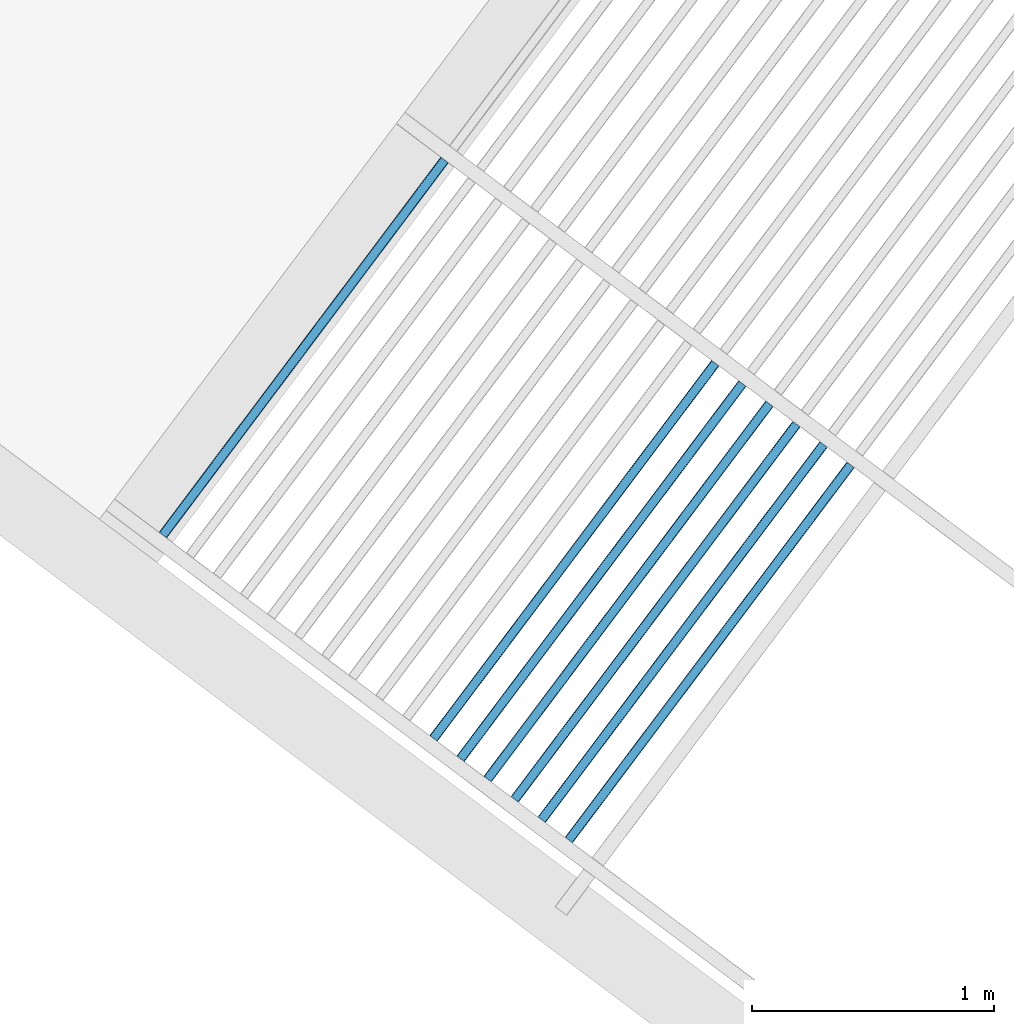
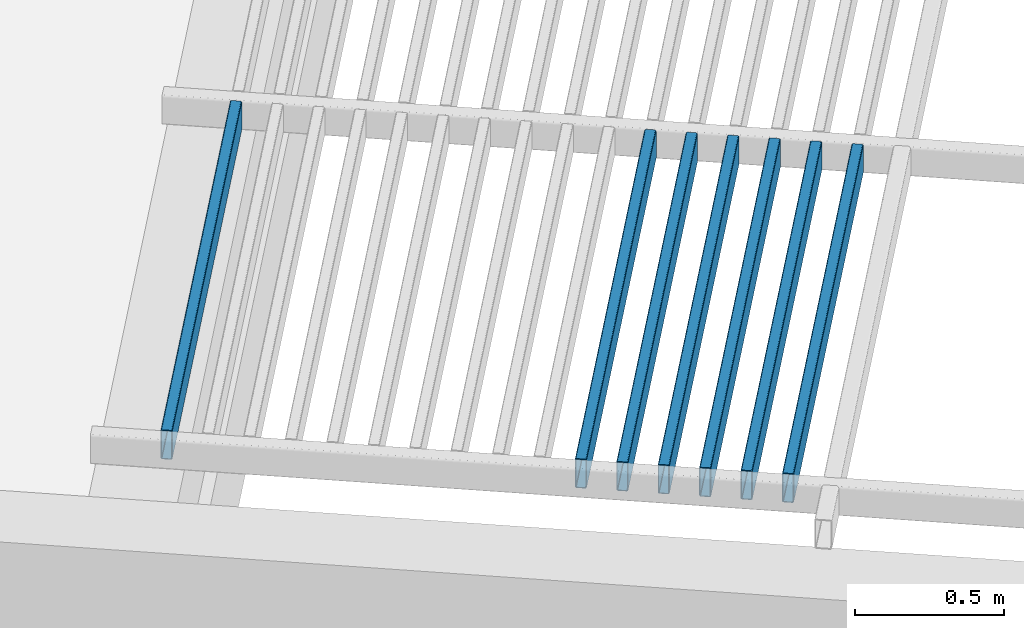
# One storey, part 39 of 95: 7 beams.
"""IFC2X3 building model written with IfcOpenShell, lengths in metres."""

from ifc_helpers import new_model, entity, si_unit, converted_unit, derived_unit, direction, frame, frame_2d, origin, place, context, subcontext, project, spatial, polyline, circle_curve, parameter, trimmed, segment, composite_curve, outline, extrude, material, type_object, element, save


model = new_model("IFC2X3")

# Units and contexts
model_context = context("Model", 3, precision=1e-05, world=origin(), true_north=direction((6.123031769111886e-17, 1.0)))
body_context = subcontext(model_context, "Body", "Model", "MODEL_VIEW")
ifc_project = project(units=[si_unit("LENGTHUNIT", "METRE"), si_unit("AREAUNIT", "SQUARE_METRE"), si_unit("VOLUMEUNIT", "CUBIC_METRE"), converted_unit("PLANEANGLEUNIT", "DEGREE", entity("IfcRatioMeasure", 0.017453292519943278), si_unit("PLANEANGLEUNIT", "RADIAN"), dimensions=[0, 0, 0, 0, 0, 0, 0]), si_unit("MASSUNIT", "GRAM", prefix="KILO"), derived_unit("MASSDENSITYUNIT", [(si_unit("MASSUNIT", "GRAM", prefix="KILO"), 1), (si_unit("LENGTHUNIT", "METRE"), -3)]), derived_unit("IONCONCENTRATIONUNIT", [(si_unit("MASSUNIT", "GRAM", prefix="KILO"), 1), (si_unit("LENGTHUNIT", "METRE"), -3)]), derived_unit("MOMENTOFINERTIAUNIT", [(si_unit("LENGTHUNIT", "METRE"), 4)]), si_unit("TIMEUNIT", "SECOND"), si_unit("FREQUENCYUNIT", "HERTZ"), si_unit("THERMODYNAMICTEMPERATUREUNIT", "DEGREE_CELSIUS"), derived_unit("THERMALTRANSMITTANCEUNIT", [(si_unit("MASSUNIT", "GRAM", prefix="KILO"), 1), (si_unit("THERMODYNAMICTEMPERATUREUNIT", "KELVIN"), -1), (si_unit("TIMEUNIT", "SECOND"), -3)]), derived_unit("THERMALCONDUCTANCEUNIT", [(si_unit("MASSUNIT", "GRAM", prefix="KILO"), 1), (si_unit("THERMODYNAMICTEMPERATUREUNIT", "KELVIN"), -1), (si_unit("TIMEUNIT", "SECOND"), -3), (si_unit("LENGTHUNIT", "METRE"), 1)]), derived_unit("VOLUMETRICFLOWRATEUNIT", [(si_unit("LENGTHUNIT", "METRE"), 3), (si_unit("TIMEUNIT", "SECOND"), -1)]), derived_unit("MASSFLOWRATEUNIT", [(si_unit("MASSUNIT", "GRAM", prefix="KILO"), 1), (si_unit("TIMEUNIT", "SECOND"), -1)]), derived_unit("ROTATIONALFREQUENCYUNIT", [(si_unit("TIMEUNIT", "SECOND"), -1)]), si_unit("ELECTRICCURRENTUNIT", "AMPERE"), si_unit("ELECTRICVOLTAGEUNIT", "VOLT"), si_unit("POWERUNIT", "WATT"), si_unit("FORCEUNIT", "NEWTON", prefix="KILO"), si_unit("ILLUMINANCEUNIT", "LUX"), si_unit("LUMINOUSFLUXUNIT", "LUMEN"), si_unit("LUMINOUSINTENSITYUNIT", "CANDELA"), derived_unit("USERDEFINED", [(si_unit("MASSUNIT", "GRAM", prefix="KILO"), -1), (si_unit("LENGTHUNIT", "METRE"), -2), (si_unit("TIMEUNIT", "SECOND"), 3), (si_unit("LUMINOUSFLUXUNIT", "LUMEN"), 1)]), derived_unit("USERDEFINED", [(si_unit("MASSUNIT", "GRAM", prefix="KILO"), 1), (si_unit("TIMEUNIT", "SECOND"), -3), (si_unit("LENGTHUNIT", "METRE"), 3), (si_unit("ELECTRICCURRENTUNIT", "AMPERE"), -2)]), derived_unit("SOUNDPOWERUNIT", [(si_unit("MASSUNIT", "GRAM", prefix="KILO"), 1), (si_unit("TIMEUNIT", "SECOND"), -3), (si_unit("LENGTHUNIT", "METRE"), 2)]), derived_unit("SOUNDPRESSUREUNIT", [(si_unit("MASSUNIT", "GRAM", prefix="KILO"), 1), (si_unit("LENGTHUNIT", "METRE"), -1), (si_unit("TIMEUNIT", "SECOND"), -2)]), derived_unit("LINEARVELOCITYUNIT", [(si_unit("LENGTHUNIT", "METRE"), 1), (si_unit("TIMEUNIT", "SECOND"), -1)]), si_unit("PRESSUREUNIT", "PASCAL"), derived_unit("USERDEFINED", [(si_unit("MASSUNIT", "GRAM", prefix="KILO"), 1), (si_unit("LENGTHUNIT", "METRE"), -2), (si_unit("TIMEUNIT", "SECOND"), -2)]), derived_unit("LINEARFORCEUNIT", [(si_unit("MASSUNIT", "GRAM", prefix="KILO"), 1), (si_unit("TIMEUNIT", "SECOND"), -2)]), derived_unit("PLANARFORCEUNIT", [(si_unit("MASSUNIT", "GRAM", prefix="KILO"), 1), (si_unit("LENGTHUNIT", "METRE"), -1), (si_unit("TIMEUNIT", "SECOND"), -2)]), derived_unit("SPECIFICHEATCAPACITYUNIT", [(si_unit("THERMODYNAMICTEMPERATUREUNIT", "KELVIN"), -1), (si_unit("LENGTHUNIT", "METRE"), 2), (si_unit("TIMEUNIT", "SECOND"), -2)]), derived_unit("HEATINGVALUEUNIT", [(si_unit("LENGTHUNIT", "METRE"), 2), (si_unit("TIMEUNIT", "SECOND"), -2)]), derived_unit("VAPORPERMEABILITYUNIT", [(si_unit("LENGTHUNIT", "METRE"), -1), (si_unit("TIMEUNIT", "SECOND"), 1)]), derived_unit("DYNAMICVISCOSITYUNIT", [(si_unit("MASSUNIT", "GRAM", prefix="KILO"), 1), (si_unit("TIMEUNIT", "SECOND"), -1), (si_unit("LENGTHUNIT", "METRE"), -1)]), derived_unit("THERMALEXPANSIONCOEFFICIENTUNIT", [(si_unit("THERMODYNAMICTEMPERATUREUNIT", "KELVIN"), -1)]), derived_unit("MODULUSOFELASTICITYUNIT", [(si_unit("MASSUNIT", "GRAM", prefix="KILO"), 1), (si_unit("LENGTHUNIT", "METRE"), -1), (si_unit("TIMEUNIT", "SECOND"), -2)]), derived_unit("ISOTHERMALMOISTURECAPACITYUNIT", [(si_unit("LENGTHUNIT", "METRE"), 3), (si_unit("MASSUNIT", "GRAM", prefix="KILO"), -1)]), derived_unit("MOISTUREDIFFUSIVITYUNIT", [(si_unit("TIMEUNIT", "SECOND"), -1), (si_unit("LENGTHUNIT", "METRE"), 2)])], contexts=[model_context])

# Site, building, storey
site_placement = place(None, origin())
site = spatial("IfcSite", under=ifc_project, at=site_placement, Name="Default", CompositionType="ELEMENT")
building_placement = place(site_placement, frame((0.0, 0.0, 235.0), z_axis=(0.0, 0.0, 1.0), x_axis=(-0.7996477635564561, 0.6004693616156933, 0.0)))
building = spatial("IfcBuilding", under=site, at=building_placement, CompositionType="ELEMENT")
storey_placement = place(building_placement, frame((0.0, 0.0, 3.400000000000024)))
storey = spatial("IfcBuildingStorey", under=building, at=storey_placement, Name="PC- Coberta STR", CompositionType="ELEMENT", Elevation=3.400000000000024)

# Beams
ifc_material = material(Name="_Acer- STR")
beam_type = type_object("IfcBeamType", Name="STR- V- Acer- RHS- Rectangular- T1:120x40RHS -", PredefinedType="NOTDEFINED")
beam_1_placement = place(storey_placement, frame((53.773552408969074, -20.38518994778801, 0.4984047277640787), z_axis=(0.0, 0.0, 1.0), x_axis=(0.0, -1.0, 0.0)))
element("IfcBeam", 1, at=beam_1_placement, inside=storey, type_object=beam_type, material=ifc_material, Name="STR- V- Acer- RHS- Rectangular- T1:120x40RHS -", ObjectType="STR- V- Acer- RHS- Rectangular- T1:120x40RHS -", context=body_context, shape_type="SweptSolid", body=[
    extrude(outline(composite_curve([segment(trimmed(circle_curve(frame_2d((-0.01400000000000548, -0.053999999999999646), x_axis=(1.0, 0.0)), 0.006), [parameter(180.0000000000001)], [parameter(269.99999999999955)], True, "PARAMETER"), True, "CONTINUOUS"), segment(polyline([(-0.01400000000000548, -0.0599999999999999), (0.013999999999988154, -0.0599999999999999)]), True, "CONTINUOUS"), segment(trimmed(circle_curve(frame_2d((0.013999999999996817, -0.053999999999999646), x_axis=(1.0, 0.0)), 0.006), [parameter(269.99999999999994)], [parameter(1.0177774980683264e-13)], True, "PARAMETER"), True, "CONTINUOUS"), segment(polyline([(0.019999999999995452, -0.053999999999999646), (0.019999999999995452, 0.05400000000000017)]), True, "CONTINUOUS"), segment(trimmed(circle_curve(frame_2d((0.013999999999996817, 0.05400000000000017), x_axis=(1.0, 0.0)), 0.006), [parameter(359.9999999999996)], [parameter(89.99999999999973)], True, "PARAMETER"), True, "CONTINUOUS"), segment(polyline([(0.013999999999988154, 0.059999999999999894), (-0.01400000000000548, 0.059999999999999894)]), True, "CONTINUOUS"), segment(trimmed(circle_curve(frame_2d((-0.01400000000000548, 0.05400000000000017), x_axis=(1.0, 0.0)), 0.006), [parameter(90.00000000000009)], [parameter(180.00000000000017)], True, "PARAMETER"), True, "CONTINUOUS"), segment(polyline([(-0.02000000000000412, 0.05400000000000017), (-0.02000000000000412, -0.05400000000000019)]), True, "CONTINUOUS")], self_intersect=False), holes=[composite_curve([segment(polyline([(0.013999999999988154, -0.05700000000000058), (-0.01400000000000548, -0.05700000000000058)]), True, "CONTINUOUS"), segment(trimmed(circle_curve(frame_2d((-0.01400000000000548, -0.05400000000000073), x_axis=(1.0, 0.0)), 0.003), [parameter(179.99999999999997)], [parameter(269.9999999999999)], True, "PARAMETER"), False, "CONTINUOUS"), segment(polyline([(-0.017000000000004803, -0.05400000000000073), (-0.017000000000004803, 0.05399999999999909)]), True, "CONTINUOUS"), segment(trimmed(circle_curve(frame_2d((-0.01400000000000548, 0.05399999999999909), x_axis=(1.0, 0.0)), 0.003), [parameter(90.00000000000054)], [parameter(180.0000000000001)], True, "PARAMETER"), False, "CONTINUOUS"), segment(polyline([(-0.01400000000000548, 0.056999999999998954), (0.013999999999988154, 0.056999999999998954)]), True, "CONTINUOUS"), segment(trimmed(circle_curve(frame_2d((0.013999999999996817, 0.05399999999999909), x_axis=(1.0, 0.0)), 0.003), [parameter(0.0)], [parameter(90.00000000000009)], True, "PARAMETER"), False, "CONTINUOUS"), segment(polyline([(0.016999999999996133, 0.05399999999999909), (0.016999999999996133, -0.05400000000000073)]), True, "CONTINUOUS"), segment(trimmed(circle_curve(frame_2d((0.013999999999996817, -0.05400000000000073), x_axis=(1.0, 0.0)), 0.003), [parameter(270.00000000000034)], [parameter(3.053332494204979e-13)], True, "PARAMETER"), False, "CONTINUOUS")], self_intersect=False)]), frame((-1.9399999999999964, 0.02159527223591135, 0.06159527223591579), z_axis=(1.0, 0.0, 0.0), x_axis=(0.0, -1.0, 0.0)), (0.0, 0.0, 1.0), 1.9400000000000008),
])
beam_2_placement = place(storey_placement, frame((52.3735524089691, -20.38518994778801, 0.4984047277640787), z_axis=(0.0, 0.0, 1.0), x_axis=(0.0, -1.0, 0.0)))
element("IfcBeam", 2, at=beam_2_placement, inside=storey, type_object=beam_type, material=ifc_material, Name="STR- V- Acer- RHS- Rectangular- T1:120x40RHS -", ObjectType="STR- V- Acer- RHS- Rectangular- T1:120x40RHS -", context=body_context, shape_type="SweptSolid", body=[
    extrude(outline(composite_curve([segment(trimmed(circle_curve(frame_2d((-0.01400000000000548, -0.053999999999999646), x_axis=(1.0, 0.0)), 0.006), [parameter(180.0000000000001)], [parameter(269.99999999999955)], True, "PARAMETER"), True, "CONTINUOUS"), segment(polyline([(-0.01400000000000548, -0.0599999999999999), (0.013999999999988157, -0.0599999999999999)]), True, "CONTINUOUS"), segment(trimmed(circle_curve(frame_2d((0.013999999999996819, -0.053999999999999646), x_axis=(1.0, 0.0)), 0.006), [parameter(269.99999999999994)], [parameter(1.0177774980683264e-13)], True, "PARAMETER"), True, "CONTINUOUS"), segment(polyline([(0.019999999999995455, -0.053999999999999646), (0.019999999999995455, 0.05400000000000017)]), True, "CONTINUOUS"), segment(trimmed(circle_curve(frame_2d((0.013999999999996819, 0.05400000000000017), x_axis=(1.0, 0.0)), 0.006), [parameter(359.9999999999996)], [parameter(89.99999999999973)], True, "PARAMETER"), True, "CONTINUOUS"), segment(polyline([(0.013999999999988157, 0.059999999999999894), (-0.01400000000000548, 0.059999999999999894)]), True, "CONTINUOUS"), segment(trimmed(circle_curve(frame_2d((-0.01400000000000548, 0.05400000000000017), x_axis=(1.0, 0.0)), 0.006), [parameter(90.00000000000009)], [parameter(180.00000000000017)], True, "PARAMETER"), True, "CONTINUOUS"), segment(polyline([(-0.02000000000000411, 0.05400000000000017), (-0.02000000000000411, -0.05400000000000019)]), True, "CONTINUOUS")], self_intersect=False), holes=[composite_curve([segment(polyline([(0.013999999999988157, -0.05700000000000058), (-0.01400000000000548, -0.05700000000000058)]), True, "CONTINUOUS"), segment(trimmed(circle_curve(frame_2d((-0.01400000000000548, -0.05400000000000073), x_axis=(1.0, 0.0)), 0.003), [parameter(179.99999999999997)], [parameter(269.9999999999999)], True, "PARAMETER"), False, "CONTINUOUS"), segment(polyline([(-0.017000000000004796, -0.05400000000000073), (-0.017000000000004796, 0.05399999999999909)]), True, "CONTINUOUS"), segment(trimmed(circle_curve(frame_2d((-0.01400000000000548, 0.05399999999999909), x_axis=(1.0, 0.0)), 0.003), [parameter(90.00000000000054)], [parameter(180.0000000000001)], True, "PARAMETER"), False, "CONTINUOUS"), segment(polyline([(-0.01400000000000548, 0.056999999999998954), (0.013999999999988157, 0.056999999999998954)]), True, "CONTINUOUS"), segment(trimmed(circle_curve(frame_2d((0.013999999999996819, 0.05399999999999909), x_axis=(1.0, 0.0)), 0.003), [parameter(0.0)], [parameter(90.00000000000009)], True, "PARAMETER"), False, "CONTINUOUS"), segment(polyline([(0.016999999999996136, 0.05399999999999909), (0.016999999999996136, -0.05400000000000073)]), True, "CONTINUOUS"), segment(trimmed(circle_curve(frame_2d((0.013999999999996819, -0.05400000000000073), x_axis=(1.0, 0.0)), 0.003), [parameter(270.00000000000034)], [parameter(3.053332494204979e-13)], True, "PARAMETER"), False, "CONTINUOUS")], self_intersect=False)]), frame((-1.9399999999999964, 0.021595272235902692, 0.06159527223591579), z_axis=(1.0, 0.0, 0.0), x_axis=(0.0, -1.0, 0.0)), (0.0, 0.0, 1.0), 1.9400000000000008),
])
beam_3_placement = place(storey_placement, frame((52.233552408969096, -20.38518994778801, 0.4984047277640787), z_axis=(0.0, 0.0, 1.0), x_axis=(0.0, -1.0, 0.0)))
element("IfcBeam", 3, at=beam_3_placement, inside=storey, type_object=beam_type, material=ifc_material, Name="STR- V- Acer- RHS- Rectangular- T1:120x40RHS -", ObjectType="STR- V- Acer- RHS- Rectangular- T1:120x40RHS -", context=body_context, shape_type="SweptSolid", body=[
    extrude(outline(composite_curve([segment(trimmed(circle_curve(frame_2d((-0.013999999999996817, -0.053999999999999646), x_axis=(1.0, 0.0)), 0.006), [parameter(180.0000000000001)], [parameter(269.99999999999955)], True, "PARAMETER"), True, "CONTINUOUS"), segment(polyline([(-0.013999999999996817, -0.0599999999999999), (0.013999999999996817, -0.0599999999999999)]), True, "CONTINUOUS"), segment(trimmed(circle_curve(frame_2d((0.01400000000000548, -0.053999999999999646), x_axis=(1.0, 0.0)), 0.006), [parameter(269.99999999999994)], [parameter(1.0177774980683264e-13)], True, "PARAMETER"), True, "CONTINUOUS"), segment(polyline([(0.020000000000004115, -0.053999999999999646), (0.020000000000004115, 0.05400000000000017)]), True, "CONTINUOUS"), segment(trimmed(circle_curve(frame_2d((0.01400000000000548, 0.05400000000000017), x_axis=(1.0, 0.0)), 0.006), [parameter(359.9999999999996)], [parameter(89.99999999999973)], True, "PARAMETER"), True, "CONTINUOUS"), segment(polyline([(0.013999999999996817, 0.059999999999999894), (-0.013999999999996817, 0.059999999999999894)]), True, "CONTINUOUS"), segment(trimmed(circle_curve(frame_2d((-0.013999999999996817, 0.05400000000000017), x_axis=(1.0, 0.0)), 0.006), [parameter(90.00000000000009)], [parameter(180.00000000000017)], True, "PARAMETER"), True, "CONTINUOUS"), segment(polyline([(-0.019999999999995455, 0.05400000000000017), (-0.019999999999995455, -0.05400000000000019)]), True, "CONTINUOUS")], self_intersect=False), holes=[composite_curve([segment(polyline([(0.013999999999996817, -0.05700000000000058), (-0.013999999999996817, -0.05700000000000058)]), True, "CONTINUOUS"), segment(trimmed(circle_curve(frame_2d((-0.013999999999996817, -0.05400000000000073), x_axis=(1.0, 0.0)), 0.003), [parameter(179.99999999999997)], [parameter(269.9999999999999)], True, "PARAMETER"), False, "CONTINUOUS"), segment(polyline([(-0.01699999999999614, -0.05400000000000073), (-0.01699999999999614, 0.05399999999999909)]), True, "CONTINUOUS"), segment(trimmed(circle_curve(frame_2d((-0.013999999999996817, 0.05399999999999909), x_axis=(1.0, 0.0)), 0.003), [parameter(90.00000000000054)], [parameter(180.0000000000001)], True, "PARAMETER"), False, "CONTINUOUS"), segment(polyline([(-0.013999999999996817, 0.056999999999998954), (0.013999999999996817, 0.056999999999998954)]), True, "CONTINUOUS"), segment(trimmed(circle_curve(frame_2d((0.01400000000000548, 0.05399999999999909), x_axis=(1.0, 0.0)), 0.003), [parameter(0.0)], [parameter(90.00000000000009)], True, "PARAMETER"), False, "CONTINUOUS"), segment(polyline([(0.017000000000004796, 0.05399999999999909), (0.017000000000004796, -0.05400000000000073)]), True, "CONTINUOUS"), segment(trimmed(circle_curve(frame_2d((0.01400000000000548, -0.05400000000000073), x_axis=(1.0, 0.0)), 0.003), [parameter(270.00000000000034)], [parameter(3.053332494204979e-13)], True, "PARAMETER"), False, "CONTINUOUS")], self_intersect=False)]), frame((-1.9399999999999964, 0.021595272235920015, 0.06159527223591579), z_axis=(1.0, 0.0, 0.0), x_axis=(0.0, -1.0, 0.0)), (0.0, 0.0, 1.0), 1.9400000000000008),
])
beam_4_placement = place(storey_placement, frame((52.09355240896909, -20.38518994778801, 0.4984047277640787), z_axis=(0.0, 0.0, 1.0), x_axis=(0.0, -1.0, 0.0)))
element("IfcBeam", 4, at=beam_4_placement, inside=storey, type_object=beam_type, material=ifc_material, Name="STR- V- Acer- RHS- Rectangular- T1:120x40RHS -", ObjectType="STR- V- Acer- RHS- Rectangular- T1:120x40RHS -", context=body_context, shape_type="SweptSolid", body=[
    extrude(outline(composite_curve([segment(trimmed(circle_curve(frame_2d((-0.013999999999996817, -0.053999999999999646), x_axis=(1.0, 0.0)), 0.006), [parameter(180.0000000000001)], [parameter(269.99999999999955)], True, "PARAMETER"), True, "CONTINUOUS"), segment(polyline([(-0.013999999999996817, -0.0599999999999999), (0.013999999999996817, -0.0599999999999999)]), True, "CONTINUOUS"), segment(trimmed(circle_curve(frame_2d((0.01400000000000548, -0.053999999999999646), x_axis=(1.0, 0.0)), 0.006), [parameter(269.99999999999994)], [parameter(1.0177774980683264e-13)], True, "PARAMETER"), True, "CONTINUOUS"), segment(polyline([(0.020000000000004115, -0.053999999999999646), (0.020000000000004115, 0.05400000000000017)]), True, "CONTINUOUS"), segment(trimmed(circle_curve(frame_2d((0.01400000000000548, 0.05400000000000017), x_axis=(1.0, 0.0)), 0.006), [parameter(359.9999999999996)], [parameter(89.99999999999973)], True, "PARAMETER"), True, "CONTINUOUS"), segment(polyline([(0.013999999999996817, 0.059999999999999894), (-0.013999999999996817, 0.059999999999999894)]), True, "CONTINUOUS"), segment(trimmed(circle_curve(frame_2d((-0.013999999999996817, 0.05400000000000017), x_axis=(1.0, 0.0)), 0.006), [parameter(90.00000000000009)], [parameter(180.00000000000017)], True, "PARAMETER"), True, "CONTINUOUS"), segment(polyline([(-0.019999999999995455, 0.05400000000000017), (-0.019999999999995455, -0.05400000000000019)]), True, "CONTINUOUS")], self_intersect=False), holes=[composite_curve([segment(polyline([(0.013999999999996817, -0.05700000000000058), (-0.013999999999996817, -0.05700000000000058)]), True, "CONTINUOUS"), segment(trimmed(circle_curve(frame_2d((-0.013999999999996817, -0.05400000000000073), x_axis=(1.0, 0.0)), 0.003), [parameter(179.99999999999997)], [parameter(269.9999999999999)], True, "PARAMETER"), False, "CONTINUOUS"), segment(polyline([(-0.01699999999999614, -0.05400000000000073), (-0.01699999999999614, 0.05399999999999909)]), True, "CONTINUOUS"), segment(trimmed(circle_curve(frame_2d((-0.013999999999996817, 0.05399999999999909), x_axis=(1.0, 0.0)), 0.003), [parameter(90.00000000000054)], [parameter(180.0000000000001)], True, "PARAMETER"), False, "CONTINUOUS"), segment(polyline([(-0.013999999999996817, 0.056999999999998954), (0.013999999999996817, 0.056999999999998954)]), True, "CONTINUOUS"), segment(trimmed(circle_curve(frame_2d((0.01400000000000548, 0.05399999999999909), x_axis=(1.0, 0.0)), 0.003), [parameter(0.0)], [parameter(90.00000000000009)], True, "PARAMETER"), False, "CONTINUOUS"), segment(polyline([(0.017000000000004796, 0.05399999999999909), (0.017000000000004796, -0.05400000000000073)]), True, "CONTINUOUS"), segment(trimmed(circle_curve(frame_2d((0.01400000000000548, -0.05400000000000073), x_axis=(1.0, 0.0)), 0.003), [parameter(270.00000000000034)], [parameter(3.053332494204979e-13)], True, "PARAMETER"), False, "CONTINUOUS")], self_intersect=False)]), frame((-1.9399999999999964, 0.021595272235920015, 0.06159527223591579), z_axis=(1.0, 0.0, 0.0), x_axis=(0.0, -1.0, 0.0)), (0.0, 0.0, 1.0), 1.9400000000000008),
])
beam_5_placement = place(storey_placement, frame((51.95355240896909, -20.38518994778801, 0.4984047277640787), z_axis=(0.0, 0.0, 1.0), x_axis=(0.0, -1.0, 0.0)))
element("IfcBeam", 5, at=beam_5_placement, inside=storey, type_object=beam_type, material=ifc_material, Name="STR- V- Acer- RHS- Rectangular- T1:120x40RHS -", ObjectType="STR- V- Acer- RHS- Rectangular- T1:120x40RHS -", context=body_context, shape_type="SweptSolid", body=[
    extrude(outline(composite_curve([segment(trimmed(circle_curve(frame_2d((-0.013999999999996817, -0.053999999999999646), x_axis=(1.0, 0.0)), 0.006), [parameter(180.0000000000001)], [parameter(269.99999999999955)], True, "PARAMETER"), True, "CONTINUOUS"), segment(polyline([(-0.013999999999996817, -0.0599999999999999), (0.013999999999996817, -0.0599999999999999)]), True, "CONTINUOUS"), segment(trimmed(circle_curve(frame_2d((0.01400000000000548, -0.053999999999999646), x_axis=(1.0, 0.0)), 0.006), [parameter(269.99999999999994)], [parameter(1.0177774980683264e-13)], True, "PARAMETER"), True, "CONTINUOUS"), segment(polyline([(0.020000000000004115, -0.053999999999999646), (0.020000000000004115, 0.05400000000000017)]), True, "CONTINUOUS"), segment(trimmed(circle_curve(frame_2d((0.01400000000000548, 0.05400000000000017), x_axis=(1.0, 0.0)), 0.006), [parameter(359.9999999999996)], [parameter(89.99999999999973)], True, "PARAMETER"), True, "CONTINUOUS"), segment(polyline([(0.013999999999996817, 0.059999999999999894), (-0.013999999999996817, 0.059999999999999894)]), True, "CONTINUOUS"), segment(trimmed(circle_curve(frame_2d((-0.013999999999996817, 0.05400000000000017), x_axis=(1.0, 0.0)), 0.006), [parameter(90.00000000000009)], [parameter(180.00000000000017)], True, "PARAMETER"), True, "CONTINUOUS"), segment(polyline([(-0.019999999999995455, 0.05400000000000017), (-0.019999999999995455, -0.05400000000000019)]), True, "CONTINUOUS")], self_intersect=False), holes=[composite_curve([segment(polyline([(0.013999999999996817, -0.05700000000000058), (-0.013999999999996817, -0.05700000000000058)]), True, "CONTINUOUS"), segment(trimmed(circle_curve(frame_2d((-0.013999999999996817, -0.05400000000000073), x_axis=(1.0, 0.0)), 0.003), [parameter(179.99999999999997)], [parameter(269.9999999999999)], True, "PARAMETER"), False, "CONTINUOUS"), segment(polyline([(-0.01699999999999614, -0.05400000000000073), (-0.01699999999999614, 0.05399999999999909)]), True, "CONTINUOUS"), segment(trimmed(circle_curve(frame_2d((-0.013999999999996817, 0.05399999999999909), x_axis=(1.0, 0.0)), 0.003), [parameter(90.00000000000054)], [parameter(180.0000000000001)], True, "PARAMETER"), False, "CONTINUOUS"), segment(polyline([(-0.013999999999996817, 0.056999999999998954), (0.013999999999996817, 0.056999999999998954)]), True, "CONTINUOUS"), segment(trimmed(circle_curve(frame_2d((0.01400000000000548, 0.05399999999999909), x_axis=(1.0, 0.0)), 0.003), [parameter(0.0)], [parameter(90.00000000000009)], True, "PARAMETER"), False, "CONTINUOUS"), segment(polyline([(0.017000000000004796, 0.05399999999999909), (0.017000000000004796, -0.05400000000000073)]), True, "CONTINUOUS"), segment(trimmed(circle_curve(frame_2d((0.01400000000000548, -0.05400000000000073), x_axis=(1.0, 0.0)), 0.003), [parameter(270.00000000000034)], [parameter(3.053332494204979e-13)], True, "PARAMETER"), False, "CONTINUOUS")], self_intersect=False)]), frame((-1.9399999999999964, 0.021595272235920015, 0.06159527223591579), z_axis=(1.0, 0.0, 0.0), x_axis=(0.0, -1.0, 0.0)), (0.0, 0.0, 1.0), 1.9400000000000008),
])
beam_6_placement = place(storey_placement, frame((51.8135524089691, -20.38518994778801, 0.4984047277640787), z_axis=(0.0, 0.0, 1.0), x_axis=(0.0, -1.0, 0.0)))
element("IfcBeam", 6, at=beam_6_placement, inside=storey, type_object=beam_type, material=ifc_material, Name="STR- V- Acer- RHS- Rectangular- T1:120x40RHS -", ObjectType="STR- V- Acer- RHS- Rectangular- T1:120x40RHS -", context=body_context, shape_type="SweptSolid", body=[
    extrude(outline(composite_curve([segment(trimmed(circle_curve(frame_2d((-0.01400000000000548, -0.053999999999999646), x_axis=(1.0, 0.0)), 0.006), [parameter(180.0000000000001)], [parameter(269.99999999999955)], True, "PARAMETER"), True, "CONTINUOUS"), segment(polyline([(-0.01400000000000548, -0.0599999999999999), (0.013999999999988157, -0.0599999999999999)]), True, "CONTINUOUS"), segment(trimmed(circle_curve(frame_2d((0.013999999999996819, -0.053999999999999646), x_axis=(1.0, 0.0)), 0.006), [parameter(269.99999999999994)], [parameter(1.0177774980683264e-13)], True, "PARAMETER"), True, "CONTINUOUS"), segment(polyline([(0.019999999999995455, -0.053999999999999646), (0.019999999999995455, 0.05400000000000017)]), True, "CONTINUOUS"), segment(trimmed(circle_curve(frame_2d((0.013999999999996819, 0.05400000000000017), x_axis=(1.0, 0.0)), 0.006), [parameter(359.9999999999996)], [parameter(89.99999999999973)], True, "PARAMETER"), True, "CONTINUOUS"), segment(polyline([(0.013999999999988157, 0.059999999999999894), (-0.01400000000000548, 0.059999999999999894)]), True, "CONTINUOUS"), segment(trimmed(circle_curve(frame_2d((-0.01400000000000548, 0.05400000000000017), x_axis=(1.0, 0.0)), 0.006), [parameter(90.00000000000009)], [parameter(180.00000000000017)], True, "PARAMETER"), True, "CONTINUOUS"), segment(polyline([(-0.02000000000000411, 0.05400000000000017), (-0.02000000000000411, -0.05400000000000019)]), True, "CONTINUOUS")], self_intersect=False), holes=[composite_curve([segment(polyline([(0.013999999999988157, -0.05700000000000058), (-0.01400000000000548, -0.05700000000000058)]), True, "CONTINUOUS"), segment(trimmed(circle_curve(frame_2d((-0.01400000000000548, -0.05400000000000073), x_axis=(1.0, 0.0)), 0.003), [parameter(179.99999999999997)], [parameter(269.9999999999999)], True, "PARAMETER"), False, "CONTINUOUS"), segment(polyline([(-0.017000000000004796, -0.05400000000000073), (-0.017000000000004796, 0.05399999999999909)]), True, "CONTINUOUS"), segment(trimmed(circle_curve(frame_2d((-0.01400000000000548, 0.05399999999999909), x_axis=(1.0, 0.0)), 0.003), [parameter(90.00000000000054)], [parameter(180.0000000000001)], True, "PARAMETER"), False, "CONTINUOUS"), segment(polyline([(-0.01400000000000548, 0.056999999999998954), (0.013999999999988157, 0.056999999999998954)]), True, "CONTINUOUS"), segment(trimmed(circle_curve(frame_2d((0.013999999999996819, 0.05399999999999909), x_axis=(1.0, 0.0)), 0.003), [parameter(0.0)], [parameter(90.00000000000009)], True, "PARAMETER"), False, "CONTINUOUS"), segment(polyline([(0.016999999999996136, 0.05399999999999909), (0.016999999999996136, -0.05400000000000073)]), True, "CONTINUOUS"), segment(trimmed(circle_curve(frame_2d((0.013999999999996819, -0.05400000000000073), x_axis=(1.0, 0.0)), 0.003), [parameter(270.00000000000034)], [parameter(3.053332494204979e-13)], True, "PARAMETER"), False, "CONTINUOUS")], self_intersect=False)]), frame((-1.9399999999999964, 0.021595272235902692, 0.06159527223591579), z_axis=(1.0, 0.0, 0.0), x_axis=(0.0, -1.0, 0.0)), (0.0, 0.0, 1.0), 1.9400000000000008),
])
beam_7_placement = place(storey_placement, frame((51.6735524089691, -20.38518994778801, 0.4984047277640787), z_axis=(0.0, 0.0, 1.0), x_axis=(0.0, -1.0, 0.0)))
element("IfcBeam", 7, at=beam_7_placement, inside=storey, type_object=beam_type, material=ifc_material, Name="STR- V- Acer- RHS- Rectangular- T1:120x40RHS -", ObjectType="STR- V- Acer- RHS- Rectangular- T1:120x40RHS -", context=body_context, shape_type="SweptSolid", body=[
    extrude(outline(composite_curve([segment(trimmed(circle_curve(frame_2d((-0.013999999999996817, -0.053999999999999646), x_axis=(1.0, 0.0)), 0.006), [parameter(180.0000000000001)], [parameter(269.99999999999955)], True, "PARAMETER"), True, "CONTINUOUS"), segment(polyline([(-0.013999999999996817, -0.0599999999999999), (0.013999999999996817, -0.0599999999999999)]), True, "CONTINUOUS"), segment(trimmed(circle_curve(frame_2d((0.01400000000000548, -0.053999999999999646), x_axis=(1.0, 0.0)), 0.006), [parameter(269.99999999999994)], [parameter(1.0177774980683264e-13)], True, "PARAMETER"), True, "CONTINUOUS"), segment(polyline([(0.020000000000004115, -0.053999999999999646), (0.020000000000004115, 0.05400000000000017)]), True, "CONTINUOUS"), segment(trimmed(circle_curve(frame_2d((0.01400000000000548, 0.05400000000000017), x_axis=(1.0, 0.0)), 0.006), [parameter(359.9999999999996)], [parameter(89.99999999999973)], True, "PARAMETER"), True, "CONTINUOUS"), segment(polyline([(0.013999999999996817, 0.059999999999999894), (-0.013999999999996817, 0.059999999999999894)]), True, "CONTINUOUS"), segment(trimmed(circle_curve(frame_2d((-0.013999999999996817, 0.05400000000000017), x_axis=(1.0, 0.0)), 0.006), [parameter(90.00000000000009)], [parameter(180.00000000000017)], True, "PARAMETER"), True, "CONTINUOUS"), segment(polyline([(-0.019999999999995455, 0.05400000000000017), (-0.019999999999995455, -0.05400000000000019)]), True, "CONTINUOUS")], self_intersect=False), holes=[composite_curve([segment(polyline([(0.013999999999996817, -0.05700000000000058), (-0.013999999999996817, -0.05700000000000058)]), True, "CONTINUOUS"), segment(trimmed(circle_curve(frame_2d((-0.013999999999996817, -0.05400000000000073), x_axis=(1.0, 0.0)), 0.003), [parameter(179.99999999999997)], [parameter(269.9999999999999)], True, "PARAMETER"), False, "CONTINUOUS"), segment(polyline([(-0.01699999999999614, -0.05400000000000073), (-0.01699999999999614, 0.05399999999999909)]), True, "CONTINUOUS"), segment(trimmed(circle_curve(frame_2d((-0.013999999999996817, 0.05399999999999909), x_axis=(1.0, 0.0)), 0.003), [parameter(90.00000000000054)], [parameter(180.0000000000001)], True, "PARAMETER"), False, "CONTINUOUS"), segment(polyline([(-0.013999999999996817, 0.056999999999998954), (0.013999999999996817, 0.056999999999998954)]), True, "CONTINUOUS"), segment(trimmed(circle_curve(frame_2d((0.01400000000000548, 0.05399999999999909), x_axis=(1.0, 0.0)), 0.003), [parameter(0.0)], [parameter(90.00000000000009)], True, "PARAMETER"), False, "CONTINUOUS"), segment(polyline([(0.017000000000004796, 0.05399999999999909), (0.017000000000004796, -0.05400000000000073)]), True, "CONTINUOUS"), segment(trimmed(circle_curve(frame_2d((0.01400000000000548, -0.05400000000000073), x_axis=(1.0, 0.0)), 0.003), [parameter(270.00000000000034)], [parameter(3.053332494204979e-13)], True, "PARAMETER"), False, "CONTINUOUS")], self_intersect=False)]), frame((-1.9399999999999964, 0.021595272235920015, 0.06159527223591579), z_axis=(1.0, 0.0, 0.0), x_axis=(0.0, -1.0, 0.0)), (0.0, 0.0, 1.0), 1.9400000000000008),
])

save(model, "model.ifc")
